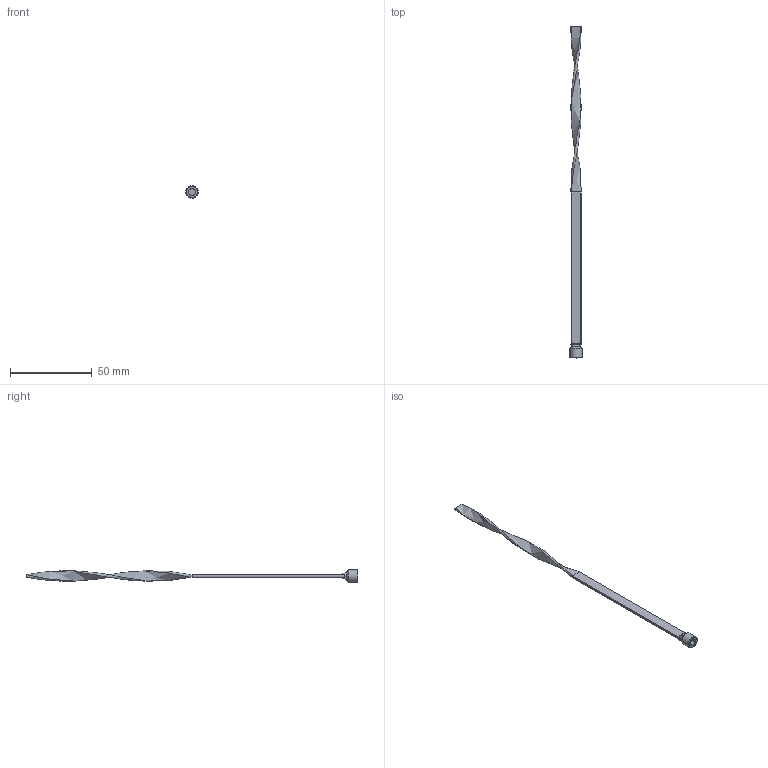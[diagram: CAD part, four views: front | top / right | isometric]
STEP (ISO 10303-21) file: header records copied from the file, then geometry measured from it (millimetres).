
FILE_DESCRIPTION(/* description */ (''),/* implementation_level */ '2;1');
FILE_NAME(/* name */ 'C:/Users/drich/Desktop/TB16X8 v1.step',/* time_stamp */ '2020-01-14T09:03:24-06:00',/* author */ (''),/* organization */ (''),/* preprocessor_version */ 'ST-DEVELOPER v18',/* originating_system */ 'Autodesk Translation Framework v8.12.0.6',/* authorisation */ '');
FILE_SCHEMA (('AUTOMOTIVE_DESIGN { 1 0 10303 214 3 1 1 }'));
Length unit declared in the file: inch
Products named in the file (1): TB16X8
Bounding box: 7.62 x 203.2 x 7.62 mm (x, y, z)
Volume: 2009.6 mm3; surface area: 3285.3 mm2
Topology: 2 solids, 2 shells, 48 faces, 123 edges, 81 vertices
Faces by surface type: plane 22, cylinder 9, cone 8, torus 5, bspline 4
Full cylindrical faces by diameter (mm): 7.616 x1
Entity records: 1780 total; most frequent: CARTESIAN_POINT 601, ORIENTED_EDGE 246, DIRECTION 225, EDGE_CURVE 123, AXIS2_PLACEMENT_3D 83, VERTEX_POINT 81, LINE 59, VECTOR 59
